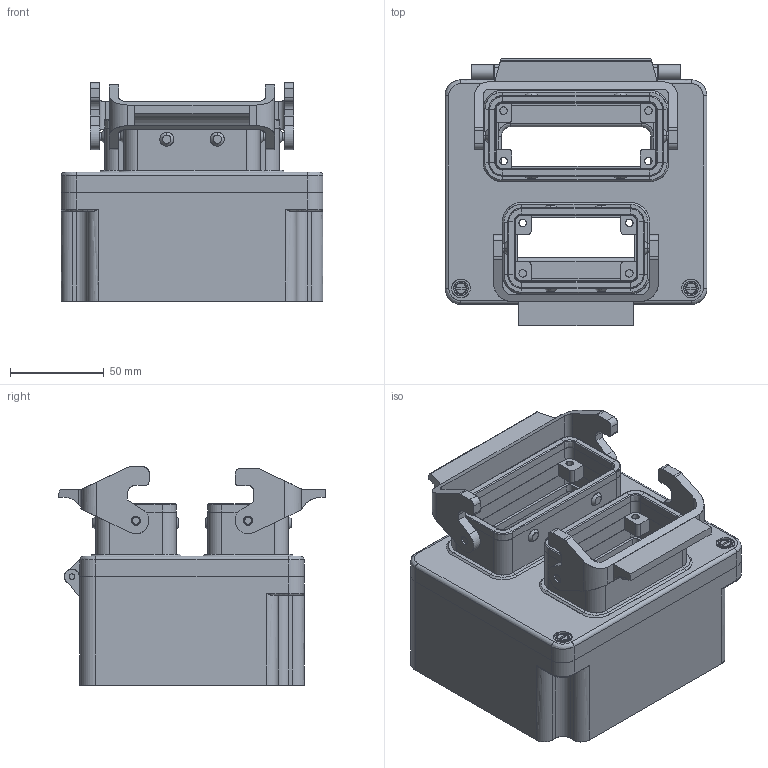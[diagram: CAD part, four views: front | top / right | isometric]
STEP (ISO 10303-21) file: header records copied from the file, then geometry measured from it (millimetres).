
FILE_DESCRIPTION( ( 'STEP AP214' ), '1' );
FILE_NAME( 'C:/Dokumente und Einstellungen/Administrator/Desktop/47 Kabelboxen/G3/10/gr_3_16e_10e-bb.stp', '2006-09-10T17:38:06', ( ' ' ), ( ' ' ), 'XStep 1.0', 'VISICAD', ' ' );
FILE_SCHEMA( ( 'automotive_design' ) );
Length unit declared in the file: millimetre
Products named in the file (1132): 1; 2; 3; 4; 5; 6; 7; 8; 9; 10; 11; 12; 13; 14; 15; 16; 17; 18; 19; 20; 21; 22; 23; 24; 25; 26; 27; 28; 29; 30; 31; 32; 33; 34; 35; 36; 37; 38; 39; 40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
Bounding box: 140 x 142.98 x 116.7 mm (x, y, z)
Surface area: 177734.3 mm2 (no closed solid volume)
Topology: 0 solids, 1142 shells, 1142 faces, 5695 edges, 5695 vertices
Faces by surface type: plane 555, bspline 418, revolution 128, cylinder 41
Entity records: 127387 total; most frequent: CARTESIAN_POINT 60495, DIRECTION 7634, ORIENTED_EDGE 5695, EDGE_CURVE 5695, VERTEX_POINT 5695, LINE 3200, VECTOR 3200, B_SPLINE_CURVE_WITH_KNOTS 2182
